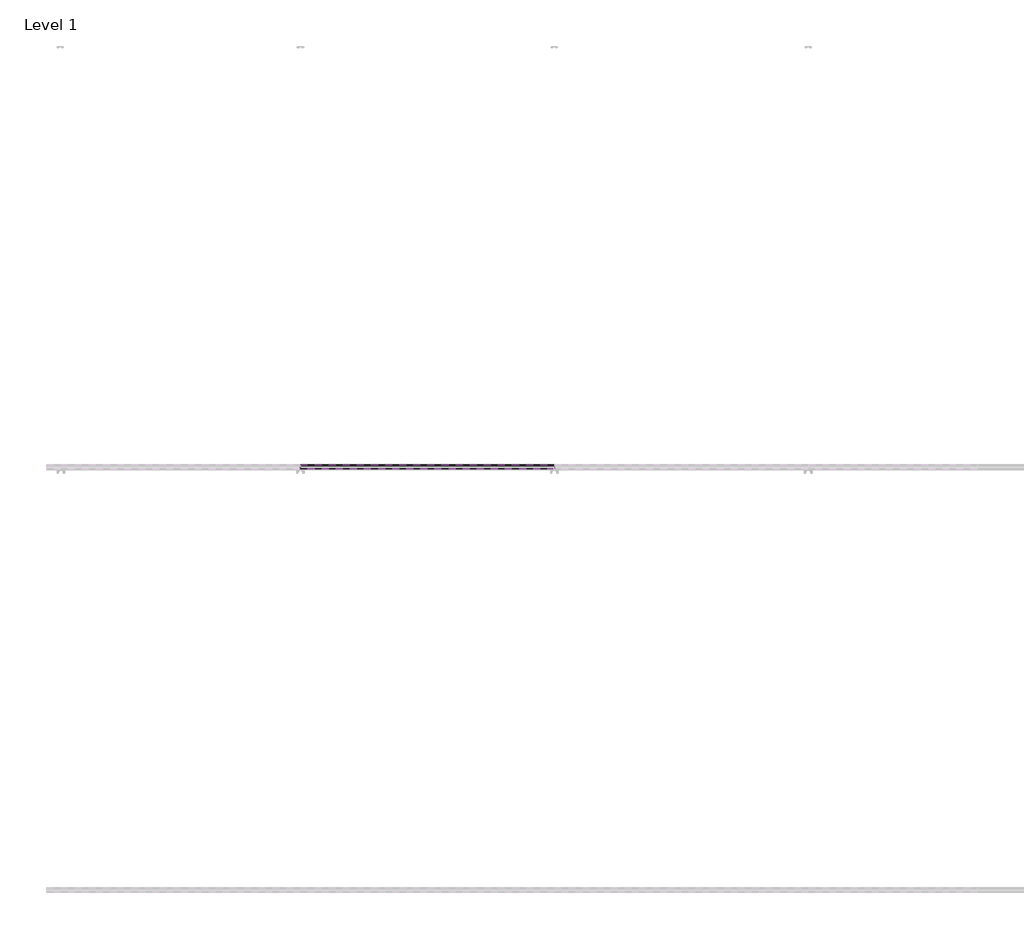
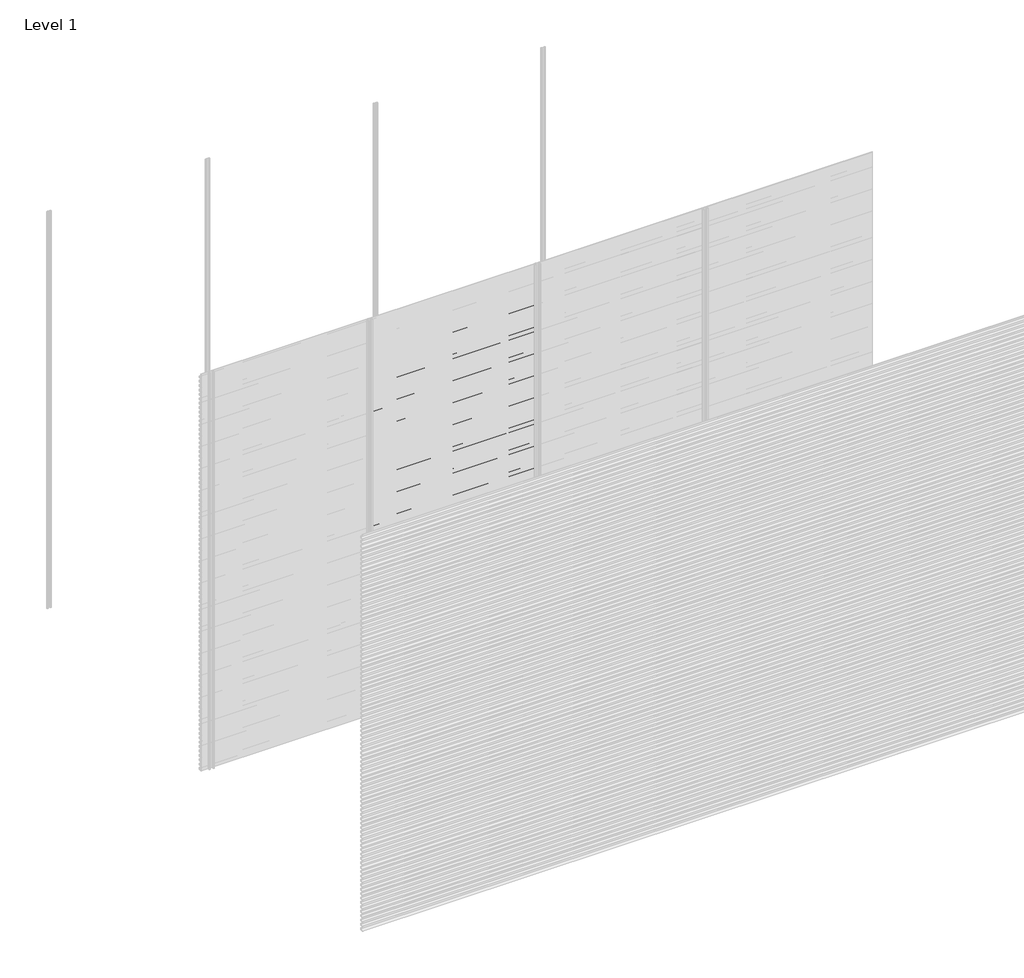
# One storey, part 66 of 77: 72 proxies.
"""IFC4 building model written with IfcOpenShell, lengths in millimetres."""

from ifc_helpers import new_model, si_unit, frame, origin, place, context, project, spatial, polyline, outline, extrude, element, save

model = new_model("IFC4")

# Units and contexts
model_context = context("Model", 3, world=origin())
ifc_project = project(units=[si_unit("LENGTHUNIT", "METRE", prefix="MILLI")], contexts=[model_context])

# Site, building, storey
site = spatial("IfcSite", under=ifc_project)
building = spatial("IfcBuilding", under=site)
storey = spatial("IfcBuildingStorey", under=building, Name="Level 1", Elevation=0.0)

# Proxies
placement = place(None, origin())
element("IfcBuildingElementProxy", 1, Name="Wall Sweeps", at=placement, inside=storey, context=model_context, shape_type="SweptSolid", body=[
    extrude(outline(polyline([(-5978.6, 2806.0359887), (-5998.0, 2817.2366691), (-5998.0, 2830.5), (-5997.0, 2830.5), (-5997.0, 2817.8191057), (-5977.6, 2806.6185105), (-5977.6, 2793.0185105), (-5978.6, 2794.5953129), (-5978.6, 2800.4032062), (-5995.9773817, 2792.3), (-5996.4, 2793.2063078), (-5978.6, 2801.5065841), (-5978.6, 2806.0359887)])), frame((1200.0, 0.0, 0.0), z_axis=(1.0, 0.0, 0.0), x_axis=(0.0, 1.0, 0.0)), (0.0, 0.0, 1.0), 1200.0),
])
element("IfcBuildingElementProxy", 2, Name="Wall Sweeps", at=placement, inside=storey, context=model_context, shape_type="SweptSolid", body=[
    extrude(outline(polyline([(-5978.6, 2772.7359887), (-5998.0, 2783.9366691), (-5998.0, 2797.2), (-5997.0, 2797.2), (-5997.0, 2784.5191057), (-5977.6, 2773.3185105), (-5977.6, 2759.7185105), (-5978.6, 2761.2953129), (-5978.6, 2767.1032062), (-5995.9773817, 2759.0), (-5996.4, 2759.9063078), (-5978.6, 2768.2065841), (-5978.6, 2772.7359887)])), frame((1200.0, 0.0, 0.0), z_axis=(1.0, 0.0, 0.0), x_axis=(0.0, 1.0, 0.0)), (0.0, 0.0, 1.0), 1200.0),
])
element("IfcBuildingElementProxy", 3, Name="Wall Sweeps", at=placement, inside=storey, context=model_context, shape_type="SweptSolid", body=[
    extrude(outline(polyline([(-5978.6, 2739.4359887), (-5998.0, 2750.6366691), (-5998.0, 2763.9), (-5997.0, 2763.9), (-5997.0, 2751.2191057), (-5977.6, 2740.0185105), (-5977.6, 2726.4185105), (-5978.6, 2727.9953129), (-5978.6, 2733.8032062), (-5995.9773817, 2725.7), (-5996.4, 2726.6063078), (-5978.6, 2734.9065841), (-5978.6, 2739.4359887)])), frame((1200.0, 0.0, 0.0), z_axis=(1.0, 0.0, 0.0), x_axis=(0.0, 1.0, 0.0)), (0.0, 0.0, 1.0), 1200.0),
])
element("IfcBuildingElementProxy", 4, Name="Wall Sweeps", at=placement, inside=storey, context=model_context, shape_type="SweptSolid", body=[
    extrude(outline(polyline([(-5978.6, 2706.1359887), (-5998.0, 2717.3366691), (-5998.0, 2730.6), (-5997.0, 2730.6), (-5997.0, 2717.9191057), (-5977.6, 2706.7185105), (-5977.6, 2693.1185105), (-5978.6, 2694.6953129), (-5978.6, 2700.5032062), (-5995.9773817, 2692.4), (-5996.4, 2693.3063078), (-5978.6, 2701.6065841), (-5978.6, 2706.1359887)])), frame((1200.0, 0.0, 0.0), z_axis=(1.0, 0.0, 0.0), x_axis=(0.0, 1.0, 0.0)), (0.0, 0.0, 1.0), 1200.0),
])
element("IfcBuildingElementProxy", 5, Name="Wall Sweeps", at=placement, inside=storey, context=model_context, shape_type="SweptSolid", body=[
    extrude(outline(polyline([(-5978.6, 2672.8359887), (-5998.0, 2684.0366691), (-5998.0, 2697.3), (-5997.0, 2697.3), (-5997.0, 2684.6191057), (-5977.6, 2673.4185105), (-5977.6, 2659.8185105), (-5978.6, 2661.3953129), (-5978.6, 2667.2032062), (-5995.9773817, 2659.1), (-5996.4, 2660.0063078), (-5978.6, 2668.3065841), (-5978.6, 2672.8359887)])), frame((1200.0, 0.0, 0.0), z_axis=(1.0, 0.0, 0.0), x_axis=(0.0, 1.0, 0.0)), (0.0, 0.0, 1.0), 1200.0),
])
element("IfcBuildingElementProxy", 6, Name="Wall Sweeps", at=placement, inside=storey, context=model_context, shape_type="SweptSolid", body=[
    extrude(outline(polyline([(-5978.6, 2639.5359887), (-5998.0, 2650.7366691), (-5998.0, 2664.0), (-5997.0, 2664.0), (-5997.0, 2651.3191057), (-5977.6, 2640.1185105), (-5977.6, 2626.5185105), (-5978.6, 2628.0953129), (-5978.6, 2633.9032062), (-5995.9773817, 2625.8), (-5996.4, 2626.7063078), (-5978.6, 2635.0065841), (-5978.6, 2639.5359887)])), frame((1200.0, 0.0, 0.0), z_axis=(1.0, 0.0, 0.0), x_axis=(0.0, 1.0, 0.0)), (0.0, 0.0, 1.0), 1200.0),
])
element("IfcBuildingElementProxy", 7, Name="Wall Sweeps", at=placement, inside=storey, context=model_context, shape_type="SweptSolid", body=[
    extrude(outline(polyline([(-5978.6, 2606.2359887), (-5998.0, 2617.4366691), (-5998.0, 2630.7), (-5997.0, 2630.7), (-5997.0, 2618.0191057), (-5977.6, 2606.8185105), (-5977.6, 2593.2185105), (-5978.6, 2594.7953129), (-5978.6, 2600.6032062), (-5995.9773817, 2592.5), (-5996.4, 2593.4063078), (-5978.6, 2601.7065841), (-5978.6, 2606.2359887)])), frame((1200.0, 0.0, 0.0), z_axis=(1.0, 0.0, 0.0), x_axis=(0.0, 1.0, 0.0)), (0.0, 0.0, 1.0), 1200.0),
])
element("IfcBuildingElementProxy", 8, Name="Wall Sweeps", at=placement, inside=storey, context=model_context, shape_type="SweptSolid", body=[
    extrude(outline(polyline([(-5978.6, 2572.9359887), (-5998.0, 2584.1366691), (-5998.0, 2597.4), (-5997.0, 2597.4), (-5997.0, 2584.7191057), (-5977.6, 2573.5185105), (-5977.6, 2559.9185105), (-5978.6, 2561.4953129), (-5978.6, 2567.3032062), (-5995.9773817, 2559.2), (-5996.4, 2560.1063078), (-5978.6, 2568.4065841), (-5978.6, 2572.9359887)])), frame((1200.0, 0.0, 0.0), z_axis=(1.0, 0.0, 0.0), x_axis=(0.0, 1.0, 0.0)), (0.0, 0.0, 1.0), 1200.0),
])
element("IfcBuildingElementProxy", 9, Name="Wall Sweeps", at=placement, inside=storey, context=model_context, shape_type="SweptSolid", body=[
    extrude(outline(polyline([(-5978.6, 2539.6359887), (-5998.0, 2550.8366691), (-5998.0, 2564.1), (-5997.0, 2564.1), (-5997.0, 2551.4191057), (-5977.6, 2540.2185105), (-5977.6, 2526.6185105), (-5978.6, 2528.1953129), (-5978.6, 2534.0032062), (-5995.9773817, 2525.9), (-5996.4, 2526.8063078), (-5978.6, 2535.1065841), (-5978.6, 2539.6359887)])), frame((1200.0, 0.0, 0.0), z_axis=(1.0, 0.0, 0.0), x_axis=(0.0, 1.0, 0.0)), (0.0, 0.0, 1.0), 1200.0),
])
element("IfcBuildingElementProxy", 10, Name="Wall Sweeps", at=placement, inside=storey, context=model_context, shape_type="SweptSolid", body=[
    extrude(outline(polyline([(-5978.6, 2506.3359887), (-5998.0, 2517.5366691), (-5998.0, 2530.8), (-5997.0, 2530.8), (-5997.0, 2518.1191057), (-5977.6, 2506.9185105), (-5977.6, 2493.3185105), (-5978.6, 2494.8953129), (-5978.6, 2500.7032062), (-5995.9773817, 2492.6), (-5996.4, 2493.5063078), (-5978.6, 2501.8065841), (-5978.6, 2506.3359887)])), frame((1200.0, 0.0, 0.0), z_axis=(1.0, 0.0, 0.0), x_axis=(0.0, 1.0, 0.0)), (0.0, 0.0, 1.0), 1200.0),
])
element("IfcBuildingElementProxy", 11, Name="Wall Sweeps", at=placement, inside=storey, context=model_context, shape_type="SweptSolid", body=[
    extrude(outline(polyline([(-5978.6, 2473.0359887), (-5998.0, 2484.2366691), (-5998.0, 2497.5), (-5997.0, 2497.5), (-5997.0, 2484.8191057), (-5977.6, 2473.6185105), (-5977.6, 2460.0185105), (-5978.6, 2461.5953129), (-5978.6, 2467.4032062), (-5995.9773817, 2459.3), (-5996.4, 2460.2063078), (-5978.6, 2468.5065841), (-5978.6, 2473.0359887)])), frame((1200.0, 0.0, 0.0), z_axis=(1.0, 0.0, 0.0), x_axis=(0.0, 1.0, 0.0)), (0.0, 0.0, 1.0), 1200.0),
])
element("IfcBuildingElementProxy", 12, Name="Wall Sweeps", at=placement, inside=storey, context=model_context, shape_type="SweptSolid", body=[
    extrude(outline(polyline([(-5978.6, 2439.7359887), (-5998.0, 2450.9366691), (-5998.0, 2464.2), (-5997.0, 2464.2), (-5997.0, 2451.5191057), (-5977.6, 2440.3185105), (-5977.6, 2426.7185105), (-5978.6, 2428.2953129), (-5978.6, 2434.1032062), (-5995.9773817, 2426.0), (-5996.4, 2426.9063078), (-5978.6, 2435.2065841), (-5978.6, 2439.7359887)])), frame((1200.0, 0.0, 0.0), z_axis=(1.0, 0.0, 0.0), x_axis=(0.0, 1.0, 0.0)), (0.0, 0.0, 1.0), 1200.0),
])
element("IfcBuildingElementProxy", 13, Name="Wall Sweeps", at=placement, inside=storey, context=model_context, shape_type="SweptSolid", body=[
    extrude(outline(polyline([(-5978.6, 2406.4359887), (-5998.0, 2417.6366691), (-5998.0, 2430.9), (-5997.0, 2430.9), (-5997.0, 2418.2191057), (-5977.6, 2407.0185105), (-5977.6, 2393.4185105), (-5978.6, 2394.9953129), (-5978.6, 2400.8032062), (-5995.9773817, 2392.7), (-5996.4, 2393.6063078), (-5978.6, 2401.9065841), (-5978.6, 2406.4359887)])), frame((1200.0, 0.0, 0.0), z_axis=(1.0, 0.0, 0.0), x_axis=(0.0, 1.0, 0.0)), (0.0, 0.0, 1.0), 1200.0),
])
element("IfcBuildingElementProxy", 14, Name="Wall Sweeps", at=placement, inside=storey, context=model_context, shape_type="SweptSolid", body=[
    extrude(outline(polyline([(-5978.6, 2373.1359887), (-5998.0, 2384.3366691), (-5998.0, 2397.6), (-5997.0, 2397.6), (-5997.0, 2384.9191057), (-5977.6, 2373.7185105), (-5977.6, 2360.1185105), (-5978.6, 2361.6953129), (-5978.6, 2367.5032062), (-5995.9773817, 2359.4), (-5996.4, 2360.3063078), (-5978.6, 2368.6065841), (-5978.6, 2373.1359887)])), frame((1200.0, 0.0, 0.0), z_axis=(1.0, 0.0, 0.0), x_axis=(0.0, 1.0, 0.0)), (0.0, 0.0, 1.0), 1200.0),
])
element("IfcBuildingElementProxy", 15, Name="Wall Sweeps", at=placement, inside=storey, context=model_context, shape_type="SweptSolid", body=[
    extrude(outline(polyline([(-5978.6, 2339.8359887), (-5998.0, 2351.0366691), (-5998.0, 2364.3), (-5997.0, 2364.3), (-5997.0, 2351.6191057), (-5977.6, 2340.4185105), (-5977.6, 2326.8185105), (-5978.6, 2328.3953129), (-5978.6, 2334.2032062), (-5995.9773817, 2326.1), (-5996.4, 2327.0063078), (-5978.6, 2335.3065841), (-5978.6, 2339.8359887)])), frame((1200.0, 0.0, 0.0), z_axis=(1.0, 0.0, 0.0), x_axis=(0.0, 1.0, 0.0)), (0.0, 0.0, 1.0), 1200.0),
])
element("IfcBuildingElementProxy", 16, Name="Wall Sweeps", at=placement, inside=storey, context=model_context, shape_type="SweptSolid", body=[
    extrude(outline(polyline([(-5978.6, 2306.5359887), (-5998.0, 2317.7366691), (-5998.0, 2331.0), (-5997.0, 2331.0), (-5997.0, 2318.3191057), (-5977.6, 2307.1185105), (-5977.6, 2293.5185105), (-5978.6, 2295.0953129), (-5978.6, 2300.9032062), (-5995.9773817, 2292.8), (-5996.4, 2293.7063078), (-5978.6, 2302.0065841), (-5978.6, 2306.5359887)])), frame((1200.0, 0.0, 0.0), z_axis=(1.0, 0.0, 0.0), x_axis=(0.0, 1.0, 0.0)), (0.0, 0.0, 1.0), 1200.0),
])
element("IfcBuildingElementProxy", 17, Name="Wall Sweeps", at=placement, inside=storey, context=model_context, shape_type="SweptSolid", body=[
    extrude(outline(polyline([(-5978.6, 2273.2359887), (-5998.0, 2284.4366691), (-5998.0, 2297.7), (-5997.0, 2297.7), (-5997.0, 2285.0191057), (-5977.6, 2273.8185105), (-5977.6, 2260.2185105), (-5978.6, 2261.7953129), (-5978.6, 2267.6032062), (-5995.9773817, 2259.5), (-5996.4, 2260.4063078), (-5978.6, 2268.7065841), (-5978.6, 2273.2359887)])), frame((1200.0, 0.0, 0.0), z_axis=(1.0, 0.0, 0.0), x_axis=(0.0, 1.0, 0.0)), (0.0, 0.0, 1.0), 1200.0),
])
element("IfcBuildingElementProxy", 18, Name="Wall Sweeps", at=placement, inside=storey, context=model_context, shape_type="SweptSolid", body=[
    extrude(outline(polyline([(-5978.6, 2239.9359887), (-5998.0, 2251.1366691), (-5998.0, 2264.4), (-5997.0, 2264.4), (-5997.0, 2251.7191057), (-5977.6, 2240.5185105), (-5977.6, 2226.9185105), (-5978.6, 2228.4953129), (-5978.6, 2234.3032062), (-5995.9773817, 2226.2), (-5996.4, 2227.1063078), (-5978.6, 2235.4065841), (-5978.6, 2239.9359887)])), frame((1200.0, 0.0, 0.0), z_axis=(1.0, 0.0, 0.0), x_axis=(0.0, 1.0, 0.0)), (0.0, 0.0, 1.0), 1200.0),
])
element("IfcBuildingElementProxy", 19, Name="Wall Sweeps", at=placement, inside=storey, context=model_context, shape_type="SweptSolid", body=[
    extrude(outline(polyline([(-5978.6, 2206.6359887), (-5998.0, 2217.8366691), (-5998.0, 2231.1), (-5997.0, 2231.1), (-5997.0, 2218.4191057), (-5977.6, 2207.2185105), (-5977.6, 2193.6185105), (-5978.6, 2195.1953129), (-5978.6, 2201.0032062), (-5995.9773817, 2192.9), (-5996.4, 2193.8063078), (-5978.6, 2202.1065841), (-5978.6, 2206.6359887)])), frame((1200.0, 0.0, 0.0), z_axis=(1.0, 0.0, 0.0), x_axis=(0.0, 1.0, 0.0)), (0.0, 0.0, 1.0), 1200.0),
])
element("IfcBuildingElementProxy", 20, Name="Wall Sweeps", at=placement, inside=storey, context=model_context, shape_type="SweptSolid", body=[
    extrude(outline(polyline([(-5978.6, 2173.3359887), (-5998.0, 2184.5366691), (-5998.0, 2197.8), (-5997.0, 2197.8), (-5997.0, 2185.1191057), (-5977.6, 2173.9185105), (-5977.6, 2160.3185105), (-5978.6, 2161.8953129), (-5978.6, 2167.7032062), (-5995.9773817, 2159.6), (-5996.4, 2160.5063078), (-5978.6, 2168.8065841), (-5978.6, 2173.3359887)])), frame((1200.0, 0.0, 0.0), z_axis=(1.0, 0.0, 0.0), x_axis=(0.0, 1.0, 0.0)), (0.0, 0.0, 1.0), 1200.0),
])
element("IfcBuildingElementProxy", 21, Name="Wall Sweeps", at=placement, inside=storey, context=model_context, shape_type="SweptSolid", body=[
    extrude(outline(polyline([(-5978.6, 2140.0359887), (-5998.0, 2151.2366691), (-5998.0, 2164.5), (-5997.0, 2164.5), (-5997.0, 2151.8191057), (-5977.6, 2140.6185105), (-5977.6, 2127.0185105), (-5978.6, 2128.5953129), (-5978.6, 2134.4032062), (-5995.9773817, 2126.3), (-5996.4, 2127.2063078), (-5978.6, 2135.5065841), (-5978.6, 2140.0359887)])), frame((1200.0, 0.0, 0.0), z_axis=(1.0, 0.0, 0.0), x_axis=(0.0, 1.0, 0.0)), (0.0, 0.0, 1.0), 1200.0),
])
element("IfcBuildingElementProxy", 22, Name="Wall Sweeps", at=placement, inside=storey, context=model_context, shape_type="SweptSolid", body=[
    extrude(outline(polyline([(-5978.6, 2106.7359887), (-5998.0, 2117.9366691), (-5998.0, 2131.2), (-5997.0, 2131.2), (-5997.0, 2118.5191057), (-5977.6, 2107.3185105), (-5977.6, 2093.7185105), (-5978.6, 2095.2953129), (-5978.6, 2101.1032062), (-5995.9773817, 2093.0), (-5996.4, 2093.9063078), (-5978.6, 2102.2065841), (-5978.6, 2106.7359887)])), frame((1200.0, 0.0, 0.0), z_axis=(1.0, 0.0, 0.0), x_axis=(0.0, 1.0, 0.0)), (0.0, 0.0, 1.0), 1200.0),
])
element("IfcBuildingElementProxy", 23, Name="Wall Sweeps", at=placement, inside=storey, context=model_context, shape_type="SweptSolid", body=[
    extrude(outline(polyline([(-5978.6, 2073.4359887), (-5998.0, 2084.6366691), (-5998.0, 2097.9), (-5997.0, 2097.9), (-5997.0, 2085.2191057), (-5977.6, 2074.0185105), (-5977.6, 2060.4185105), (-5978.6, 2061.9953129), (-5978.6, 2067.8032062), (-5995.9773817, 2059.7), (-5996.4, 2060.6063078), (-5978.6, 2068.9065841), (-5978.6, 2073.4359887)])), frame((1200.0, 0.0, 0.0), z_axis=(1.0, 0.0, 0.0), x_axis=(0.0, 1.0, 0.0)), (0.0, 0.0, 1.0), 1200.0),
])
element("IfcBuildingElementProxy", 24, Name="Wall Sweeps", at=placement, inside=storey, context=model_context, shape_type="SweptSolid", body=[
    extrude(outline(polyline([(-5978.6, 2040.1359887), (-5998.0, 2051.3366691), (-5998.0, 2064.6), (-5997.0, 2064.6), (-5997.0, 2051.9191057), (-5977.6, 2040.7185105), (-5977.6, 2027.1185105), (-5978.6, 2028.6953129), (-5978.6, 2034.5032062), (-5995.9773817, 2026.4), (-5996.4, 2027.3063078), (-5978.6, 2035.6065841), (-5978.6, 2040.1359887)])), frame((1200.0, 0.0, 0.0), z_axis=(1.0, 0.0, 0.0), x_axis=(0.0, 1.0, 0.0)), (0.0, 0.0, 1.0), 1200.0),
])
element("IfcBuildingElementProxy", 25, Name="Wall Sweeps", at=placement, inside=storey, context=model_context, shape_type="SweptSolid", body=[
    extrude(outline(polyline([(-5978.6, 2006.8359887), (-5998.0, 2018.0366691), (-5998.0, 2031.3), (-5997.0, 2031.3), (-5997.0, 2018.6191057), (-5977.6, 2007.4185105), (-5977.6, 1993.8185105), (-5978.6, 1995.3953129), (-5978.6, 2001.2032062), (-5995.9773817, 1993.1), (-5996.4, 1994.0063078), (-5978.6, 2002.3065841), (-5978.6, 2006.8359887)])), frame((1200.0, 0.0, 0.0), z_axis=(1.0, 0.0, 0.0), x_axis=(0.0, 1.0, 0.0)), (0.0, 0.0, 1.0), 1200.0),
])
element("IfcBuildingElementProxy", 26, Name="Wall Sweeps", at=placement, inside=storey, context=model_context, shape_type="SweptSolid", body=[
    extrude(outline(polyline([(-5978.6, 1973.5359887), (-5998.0, 1984.7366691), (-5998.0, 1998.0), (-5997.0, 1998.0), (-5997.0, 1985.3191057), (-5977.6, 1974.1185105), (-5977.6, 1960.5185105), (-5978.6, 1962.0953129), (-5978.6, 1967.9032062), (-5995.9773817, 1959.8), (-5996.4, 1960.7063078), (-5978.6, 1969.0065841), (-5978.6, 1973.5359887)])), frame((1200.0, 0.0, 0.0), z_axis=(1.0, 0.0, 0.0), x_axis=(0.0, 1.0, 0.0)), (0.0, 0.0, 1.0), 1200.0),
])
element("IfcBuildingElementProxy", 27, Name="Wall Sweeps", at=placement, inside=storey, context=model_context, shape_type="SweptSolid", body=[
    extrude(outline(polyline([(-5978.6, 1940.2359887), (-5998.0, 1951.4366691), (-5998.0, 1964.7), (-5997.0, 1964.7), (-5997.0, 1952.0191057), (-5977.6, 1940.8185105), (-5977.6, 1927.2185105), (-5978.6, 1928.7953129), (-5978.6, 1934.6032062), (-5995.9773817, 1926.5), (-5996.4, 1927.4063078), (-5978.6, 1935.7065841), (-5978.6, 1940.2359887)])), frame((1200.0, 0.0, 0.0), z_axis=(1.0, 0.0, 0.0), x_axis=(0.0, 1.0, 0.0)), (0.0, 0.0, 1.0), 1200.0),
])
element("IfcBuildingElementProxy", 28, Name="Wall Sweeps", at=placement, inside=storey, context=model_context, shape_type="SweptSolid", body=[
    extrude(outline(polyline([(-5978.6, 1906.9359887), (-5998.0, 1918.1366691), (-5998.0, 1931.4), (-5997.0, 1931.4), (-5997.0, 1918.7191057), (-5977.6, 1907.5185105), (-5977.6, 1893.9185105), (-5978.6, 1895.4953129), (-5978.6, 1901.3032062), (-5995.9773817, 1893.2), (-5996.4, 1894.1063078), (-5978.6, 1902.4065841), (-5978.6, 1906.9359887)])), frame((1200.0, 0.0, 0.0), z_axis=(1.0, 0.0, 0.0), x_axis=(0.0, 1.0, 0.0)), (0.0, 0.0, 1.0), 1200.0),
])
element("IfcBuildingElementProxy", 29, Name="Wall Sweeps", at=placement, inside=storey, context=model_context, shape_type="SweptSolid", body=[
    extrude(outline(polyline([(-5978.6, 1873.6359887), (-5998.0, 1884.8366691), (-5998.0, 1898.1), (-5997.0, 1898.1), (-5997.0, 1885.4191057), (-5977.6, 1874.2185105), (-5977.6, 1860.6185105), (-5978.6, 1862.1953129), (-5978.6, 1868.0032062), (-5995.9773817, 1859.9), (-5996.4, 1860.8063078), (-5978.6, 1869.1065841), (-5978.6, 1873.6359887)])), frame((1200.0, 0.0, 0.0), z_axis=(1.0, 0.0, 0.0), x_axis=(0.0, 1.0, 0.0)), (0.0, 0.0, 1.0), 1200.0),
])
element("IfcBuildingElementProxy", 30, Name="Wall Sweeps", at=placement, inside=storey, context=model_context, shape_type="SweptSolid", body=[
    extrude(outline(polyline([(-5978.6, 1840.3359887), (-5998.0, 1851.5366691), (-5998.0, 1864.8), (-5997.0, 1864.8), (-5997.0, 1852.1191057), (-5977.6, 1840.9185105), (-5977.6, 1827.3185105), (-5978.6, 1828.8953129), (-5978.6, 1834.7032062), (-5995.9773817, 1826.6), (-5996.4, 1827.5063078), (-5978.6, 1835.8065841), (-5978.6, 1840.3359887)])), frame((1200.0, 0.0, 0.0), z_axis=(1.0, 0.0, 0.0), x_axis=(0.0, 1.0, 0.0)), (0.0, 0.0, 1.0), 1200.0),
])
element("IfcBuildingElementProxy", 31, Name="Wall Sweeps", at=placement, inside=storey, context=model_context, shape_type="SweptSolid", body=[
    extrude(outline(polyline([(-5978.6, 1807.0359887), (-5998.0, 1818.2366691), (-5998.0, 1831.5), (-5997.0, 1831.5), (-5997.0, 1818.8191057), (-5977.6, 1807.6185105), (-5977.6, 1794.0185105), (-5978.6, 1795.5953129), (-5978.6, 1801.4032062), (-5995.9773817, 1793.3), (-5996.4, 1794.2063078), (-5978.6, 1802.5065841), (-5978.6, 1807.0359887)])), frame((1200.0, 0.0, 0.0), z_axis=(1.0, 0.0, 0.0), x_axis=(0.0, 1.0, 0.0)), (0.0, 0.0, 1.0), 1200.0),
])
element("IfcBuildingElementProxy", 32, Name="Wall Sweeps", at=placement, inside=storey, context=model_context, shape_type="SweptSolid", body=[
    extrude(outline(polyline([(-5978.6, 1773.7359887), (-5998.0, 1784.9366691), (-5998.0, 1798.2), (-5997.0, 1798.2), (-5997.0, 1785.5191057), (-5977.6, 1774.3185105), (-5977.6, 1760.7185105), (-5978.6, 1762.2953129), (-5978.6, 1768.1032062), (-5995.9773817, 1760.0), (-5996.4, 1760.9063078), (-5978.6, 1769.2065841), (-5978.6, 1773.7359887)])), frame((1200.0, 0.0, 0.0), z_axis=(1.0, 0.0, 0.0), x_axis=(0.0, 1.0, 0.0)), (0.0, 0.0, 1.0), 1200.0),
])
element("IfcBuildingElementProxy", 33, Name="Wall Sweeps", at=placement, inside=storey, context=model_context, shape_type="SweptSolid", body=[
    extrude(outline(polyline([(-5978.6, 1740.4359887), (-5998.0, 1751.6366691), (-5998.0, 1764.9), (-5997.0, 1764.9), (-5997.0, 1752.2191057), (-5977.6, 1741.0185105), (-5977.6, 1727.4185105), (-5978.6, 1728.9953129), (-5978.6, 1734.8032062), (-5995.9773817, 1726.7), (-5996.4, 1727.6063078), (-5978.6, 1735.9065841), (-5978.6, 1740.4359887)])), frame((1200.0, 0.0, 0.0), z_axis=(1.0, 0.0, 0.0), x_axis=(0.0, 1.0, 0.0)), (0.0, 0.0, 1.0), 1200.0),
])
element("IfcBuildingElementProxy", 34, Name="Wall Sweeps", at=placement, inside=storey, context=model_context, shape_type="SweptSolid", body=[
    extrude(outline(polyline([(-5978.6, 1707.1359887), (-5998.0, 1718.3366691), (-5998.0, 1731.6), (-5997.0, 1731.6), (-5997.0, 1718.9191057), (-5977.6, 1707.7185105), (-5977.6, 1694.1185105), (-5978.6, 1695.6953129), (-5978.6, 1701.5032062), (-5995.9773817, 1693.4), (-5996.4, 1694.3063078), (-5978.6, 1702.6065841), (-5978.6, 1707.1359887)])), frame((1200.0, 0.0, 0.0), z_axis=(1.0, 0.0, 0.0), x_axis=(0.0, 1.0, 0.0)), (0.0, 0.0, 1.0), 1200.0),
])
element("IfcBuildingElementProxy", 35, Name="Wall Sweeps", at=placement, inside=storey, context=model_context, shape_type="SweptSolid", body=[
    extrude(outline(polyline([(-5978.6, 1673.8359887), (-5998.0, 1685.0366691), (-5998.0, 1698.3), (-5997.0, 1698.3), (-5997.0, 1685.6191057), (-5977.6, 1674.4185105), (-5977.6, 1660.8185105), (-5978.6, 1662.3953129), (-5978.6, 1668.2032062), (-5995.9773817, 1660.1), (-5996.4, 1661.0063078), (-5978.6, 1669.3065841), (-5978.6, 1673.8359887)])), frame((1200.0, 0.0, 0.0), z_axis=(1.0, 0.0, 0.0), x_axis=(0.0, 1.0, 0.0)), (0.0, 0.0, 1.0), 1200.0),
])
element("IfcBuildingElementProxy", 36, Name="Wall Sweeps", at=placement, inside=storey, context=model_context, shape_type="SweptSolid", body=[
    extrude(outline(polyline([(-5978.6, 1640.5359887), (-5998.0, 1651.7366691), (-5998.0, 1665.0), (-5997.0, 1665.0), (-5997.0, 1652.3191057), (-5977.6, 1641.1185105), (-5977.6, 1627.5185105), (-5978.6, 1629.0953129), (-5978.6, 1634.9032062), (-5995.9773817, 1626.8), (-5996.4, 1627.7063078), (-5978.6, 1636.0065841), (-5978.6, 1640.5359887)])), frame((1200.0, 0.0, 0.0), z_axis=(1.0, 0.0, 0.0), x_axis=(0.0, 1.0, 0.0)), (0.0, 0.0, 1.0), 1200.0),
])
element("IfcBuildingElementProxy", 37, Name="Wall Sweeps", at=placement, inside=storey, context=model_context, shape_type="SweptSolid", body=[
    extrude(outline(polyline([(-5978.6, 1607.2359887), (-5998.0, 1618.4366691), (-5998.0, 1631.7), (-5997.0, 1631.7), (-5997.0, 1619.0191057), (-5977.6, 1607.8185105), (-5977.6, 1594.2185105), (-5978.6, 1595.7953129), (-5978.6, 1601.6032062), (-5995.9773817, 1593.5), (-5996.4, 1594.4063078), (-5978.6, 1602.7065841), (-5978.6, 1607.2359887)])), frame((1200.0, 0.0, 0.0), z_axis=(1.0, 0.0, 0.0), x_axis=(0.0, 1.0, 0.0)), (0.0, 0.0, 1.0), 1200.0),
])
element("IfcBuildingElementProxy", 38, Name="Wall Sweeps", at=placement, inside=storey, context=model_context, shape_type="SweptSolid", body=[
    extrude(outline(polyline([(-5978.6, 1573.9359887), (-5998.0, 1585.1366691), (-5998.0, 1598.4), (-5997.0, 1598.4), (-5997.0, 1585.7191057), (-5977.6, 1574.5185105), (-5977.6, 1560.9185105), (-5978.6, 1562.4953129), (-5978.6, 1568.3032062), (-5995.9773817, 1560.2), (-5996.4, 1561.1063078), (-5978.6, 1569.4065841), (-5978.6, 1573.9359887)])), frame((1200.0, 0.0, 0.0), z_axis=(1.0, 0.0, 0.0), x_axis=(0.0, 1.0, 0.0)), (0.0, 0.0, 1.0), 1200.0),
])
element("IfcBuildingElementProxy", 39, Name="Wall Sweeps", at=placement, inside=storey, context=model_context, shape_type="SweptSolid", body=[
    extrude(outline(polyline([(-5978.6, 1540.6359887), (-5998.0, 1551.8366691), (-5998.0, 1565.1), (-5997.0, 1565.1), (-5997.0, 1552.4191057), (-5977.6, 1541.2185105), (-5977.6, 1527.6185105), (-5978.6, 1529.1953129), (-5978.6, 1535.0032062), (-5995.9773817, 1526.9), (-5996.4, 1527.8063078), (-5978.6, 1536.1065841), (-5978.6, 1540.6359887)])), frame((1200.0, 0.0, 0.0), z_axis=(1.0, 0.0, 0.0), x_axis=(0.0, 1.0, 0.0)), (0.0, 0.0, 1.0), 1200.0),
])
element("IfcBuildingElementProxy", 40, Name="Wall Sweeps", at=placement, inside=storey, context=model_context, shape_type="SweptSolid", body=[
    extrude(outline(polyline([(-5978.6, 1507.3359887), (-5998.0, 1518.5366691), (-5998.0, 1531.8), (-5997.0, 1531.8), (-5997.0, 1519.1191057), (-5977.6, 1507.9185105), (-5977.6, 1494.3185105), (-5978.6, 1495.8953129), (-5978.6, 1501.7032062), (-5995.9773817, 1493.6), (-5996.4, 1494.5063078), (-5978.6, 1502.8065841), (-5978.6, 1507.3359887)])), frame((1200.0, 0.0, 0.0), z_axis=(1.0, 0.0, 0.0), x_axis=(0.0, 1.0, 0.0)), (0.0, 0.0, 1.0), 1200.0),
])
element("IfcBuildingElementProxy", 41, Name="Wall Sweeps", at=placement, inside=storey, context=model_context, shape_type="SweptSolid", body=[
    extrude(outline(polyline([(-5978.6, 1474.0359887), (-5998.0, 1485.2366691), (-5998.0, 1498.5), (-5997.0, 1498.5), (-5997.0, 1485.8191057), (-5977.6, 1474.6185105), (-5977.6, 1461.0185105), (-5978.6, 1462.5953129), (-5978.6, 1468.4032062), (-5995.9773817, 1460.3), (-5996.4, 1461.2063078), (-5978.6, 1469.5065841), (-5978.6, 1474.0359887)])), frame((1200.0, 0.0, 0.0), z_axis=(1.0, 0.0, 0.0), x_axis=(0.0, 1.0, 0.0)), (0.0, 0.0, 1.0), 1200.0),
])
element("IfcBuildingElementProxy", 42, Name="Wall Sweeps", at=placement, inside=storey, context=model_context, shape_type="SweptSolid", body=[
    extrude(outline(polyline([(-5978.6, 1440.7359887), (-5998.0, 1451.9366691), (-5998.0, 1465.2), (-5997.0, 1465.2), (-5997.0, 1452.5191057), (-5977.6, 1441.3185105), (-5977.6, 1427.7185105), (-5978.6, 1429.2953129), (-5978.6, 1435.1032062), (-5995.9773817, 1427.0), (-5996.4, 1427.9063078), (-5978.6, 1436.2065841), (-5978.6, 1440.7359887)])), frame((1200.0, 0.0, 0.0), z_axis=(1.0, 0.0, 0.0), x_axis=(0.0, 1.0, 0.0)), (0.0, 0.0, 1.0), 1200.0),
])
element("IfcBuildingElementProxy", 43, Name="Wall Sweeps", at=placement, inside=storey, context=model_context, shape_type="SweptSolid", body=[
    extrude(outline(polyline([(-5978.6, 1407.4359887), (-5998.0, 1418.6366691), (-5998.0, 1431.9), (-5997.0, 1431.9), (-5997.0, 1419.2191057), (-5977.6, 1408.0185105), (-5977.6, 1394.4185105), (-5978.6, 1395.9953129), (-5978.6, 1401.8032062), (-5995.9773817, 1393.7), (-5996.4, 1394.6063078), (-5978.6, 1402.9065841), (-5978.6, 1407.4359887)])), frame((1200.0, 0.0, 0.0), z_axis=(1.0, 0.0, 0.0), x_axis=(0.0, 1.0, 0.0)), (0.0, 0.0, 1.0), 1200.0),
])
element("IfcBuildingElementProxy", 44, Name="Wall Sweeps", at=placement, inside=storey, context=model_context, shape_type="SweptSolid", body=[
    extrude(outline(polyline([(-5978.6, 1374.1359887), (-5998.0, 1385.3366691), (-5998.0, 1398.6), (-5997.0, 1398.6), (-5997.0, 1385.9191057), (-5977.6, 1374.7185105), (-5977.6, 1361.1185105), (-5978.6, 1362.6953129), (-5978.6, 1368.5032062), (-5995.9773817, 1360.4), (-5996.4, 1361.3063078), (-5978.6, 1369.6065841), (-5978.6, 1374.1359887)])), frame((1200.0, 0.0, 0.0), z_axis=(1.0, 0.0, 0.0), x_axis=(0.0, 1.0, 0.0)), (0.0, 0.0, 1.0), 1200.0),
])
element("IfcBuildingElementProxy", 45, Name="Wall Sweeps", at=placement, inside=storey, context=model_context, shape_type="SweptSolid", body=[
    extrude(outline(polyline([(-5978.6, 1340.8359887), (-5998.0, 1352.0366691), (-5998.0, 1365.3), (-5997.0, 1365.3), (-5997.0, 1352.6191057), (-5977.6, 1341.4185105), (-5977.6, 1327.8185105), (-5978.6, 1329.3953129), (-5978.6, 1335.2032062), (-5995.9773817, 1327.1), (-5996.4, 1328.0063078), (-5978.6, 1336.3065841), (-5978.6, 1340.8359887)])), frame((1200.0, 0.0, 0.0), z_axis=(1.0, 0.0, 0.0), x_axis=(0.0, 1.0, 0.0)), (0.0, 0.0, 1.0), 1200.0),
])
element("IfcBuildingElementProxy", 46, Name="Wall Sweeps", at=placement, inside=storey, context=model_context, shape_type="SweptSolid", body=[
    extrude(outline(polyline([(-5978.6, 1307.5359887), (-5998.0, 1318.7366691), (-5998.0, 1332.0), (-5997.0, 1332.0), (-5997.0, 1319.3191057), (-5977.6, 1308.1185105), (-5977.6, 1294.5185105), (-5978.6, 1296.0953129), (-5978.6, 1301.9032062), (-5995.9773817, 1293.8), (-5996.4, 1294.7063078), (-5978.6, 1303.0065841), (-5978.6, 1307.5359887)])), frame((1200.0, 0.0, 0.0), z_axis=(1.0, 0.0, 0.0), x_axis=(0.0, 1.0, 0.0)), (0.0, 0.0, 1.0), 1200.0),
])
element("IfcBuildingElementProxy", 47, Name="Wall Sweeps", at=placement, inside=storey, context=model_context, shape_type="SweptSolid", body=[
    extrude(outline(polyline([(-5978.6, 1274.2359887), (-5998.0, 1285.4366691), (-5998.0, 1298.7), (-5997.0, 1298.7), (-5997.0, 1286.0191057), (-5977.6, 1274.8185105), (-5977.6, 1261.2185105), (-5978.6, 1262.7953129), (-5978.6, 1268.6032062), (-5995.9773817, 1260.5), (-5996.4, 1261.4063078), (-5978.6, 1269.7065841), (-5978.6, 1274.2359887)])), frame((1200.0, 0.0, 0.0), z_axis=(1.0, 0.0, 0.0), x_axis=(0.0, 1.0, 0.0)), (0.0, 0.0, 1.0), 1200.0),
])
element("IfcBuildingElementProxy", 48, Name="Wall Sweeps", at=placement, inside=storey, context=model_context, shape_type="SweptSolid", body=[
    extrude(outline(polyline([(-5978.6, 1240.9359887), (-5998.0, 1252.1366691), (-5998.0, 1265.4), (-5997.0, 1265.4), (-5997.0, 1252.7191057), (-5977.6, 1241.5185105), (-5977.6, 1227.9185105), (-5978.6, 1229.4953129), (-5978.6, 1235.3032062), (-5995.9773817, 1227.2), (-5996.4, 1228.1063078), (-5978.6, 1236.4065841), (-5978.6, 1240.9359887)])), frame((1200.0, 0.0, 0.0), z_axis=(1.0, 0.0, 0.0), x_axis=(0.0, 1.0, 0.0)), (0.0, 0.0, 1.0), 1200.0),
])
element("IfcBuildingElementProxy", 49, Name="Wall Sweeps", at=placement, inside=storey, context=model_context, shape_type="SweptSolid", body=[
    extrude(outline(polyline([(-5978.6, 1207.6359887), (-5998.0, 1218.8366691), (-5998.0, 1232.1), (-5997.0, 1232.1), (-5997.0, 1219.4191057), (-5977.6, 1208.2185105), (-5977.6, 1194.6185105), (-5978.6, 1196.1953129), (-5978.6, 1202.0032062), (-5995.9773817, 1193.9), (-5996.4, 1194.8063078), (-5978.6, 1203.1065841), (-5978.6, 1207.6359887)])), frame((1200.0, 0.0, 0.0), z_axis=(1.0, 0.0, 0.0), x_axis=(0.0, 1.0, 0.0)), (0.0, 0.0, 1.0), 1200.0),
])
element("IfcBuildingElementProxy", 50, Name="Wall Sweeps", at=placement, inside=storey, context=model_context, shape_type="SweptSolid", body=[
    extrude(outline(polyline([(-5978.6, 1174.3359887), (-5998.0, 1185.5366691), (-5998.0, 1198.8), (-5997.0, 1198.8), (-5997.0, 1186.1191057), (-5977.6, 1174.9185105), (-5977.6, 1161.3185105), (-5978.6, 1162.8953129), (-5978.6, 1168.7032062), (-5995.9773817, 1160.6), (-5996.4, 1161.5063078), (-5978.6, 1169.8065841), (-5978.6, 1174.3359887)])), frame((1200.0, 0.0, 0.0), z_axis=(1.0, 0.0, 0.0), x_axis=(0.0, 1.0, 0.0)), (0.0, 0.0, 1.0), 1200.0),
])
element("IfcBuildingElementProxy", 51, Name="Wall Sweeps", at=placement, inside=storey, context=model_context, shape_type="SweptSolid", body=[
    extrude(outline(polyline([(-5978.6, 1141.0359887), (-5998.0, 1152.2366691), (-5998.0, 1165.5), (-5997.0, 1165.5), (-5997.0, 1152.8191057), (-5977.6, 1141.6185105), (-5977.6, 1128.0185105), (-5978.6, 1129.5953129), (-5978.6, 1135.4032062), (-5995.9773817, 1127.3), (-5996.4, 1128.2063078), (-5978.6, 1136.5065841), (-5978.6, 1141.0359887)])), frame((1200.0, 0.0, 0.0), z_axis=(1.0, 0.0, 0.0), x_axis=(0.0, 1.0, 0.0)), (0.0, 0.0, 1.0), 1200.0),
])
element("IfcBuildingElementProxy", 52, Name="Wall Sweeps", at=placement, inside=storey, context=model_context, shape_type="SweptSolid", body=[
    extrude(outline(polyline([(-5978.6, 1107.7359887), (-5998.0, 1118.9366691), (-5998.0, 1132.2), (-5997.0, 1132.2), (-5997.0, 1119.5191057), (-5977.6, 1108.3185105), (-5977.6, 1094.7185105), (-5978.6, 1096.2953129), (-5978.6, 1102.1032062), (-5995.9773817, 1094.0), (-5996.4, 1094.9063078), (-5978.6, 1103.2065841), (-5978.6, 1107.7359887)])), frame((1200.0, 0.0, 0.0), z_axis=(1.0, 0.0, 0.0), x_axis=(0.0, 1.0, 0.0)), (0.0, 0.0, 1.0), 1200.0),
])
element("IfcBuildingElementProxy", 53, Name="Wall Sweeps", at=placement, inside=storey, context=model_context, shape_type="SweptSolid", body=[
    extrude(outline(polyline([(-5978.6, 1074.4359887), (-5998.0, 1085.6366691), (-5998.0, 1098.9), (-5997.0, 1098.9), (-5997.0, 1086.2191057), (-5977.6, 1075.0185105), (-5977.6, 1061.4185105), (-5978.6, 1062.9953129), (-5978.6, 1068.8032062), (-5995.9773817, 1060.7), (-5996.4, 1061.6063078), (-5978.6, 1069.9065841), (-5978.6, 1074.4359887)])), frame((1200.0, 0.0, 0.0), z_axis=(1.0, 0.0, 0.0), x_axis=(0.0, 1.0, 0.0)), (0.0, 0.0, 1.0), 1200.0),
])
element("IfcBuildingElementProxy", 54, Name="Wall Sweeps", at=placement, inside=storey, context=model_context, shape_type="SweptSolid", body=[
    extrude(outline(polyline([(-5978.6, 1041.1359887), (-5998.0, 1052.3366691), (-5998.0, 1065.6), (-5997.0, 1065.6), (-5997.0, 1052.9191057), (-5977.6, 1041.7185105), (-5977.6, 1028.1185105), (-5978.6, 1029.6953129), (-5978.6, 1035.5032062), (-5995.9773817, 1027.4), (-5996.4, 1028.3063078), (-5978.6, 1036.6065841), (-5978.6, 1041.1359887)])), frame((1200.0, 0.0, 0.0), z_axis=(1.0, 0.0, 0.0), x_axis=(0.0, 1.0, 0.0)), (0.0, 0.0, 1.0), 1200.0),
])
element("IfcBuildingElementProxy", 55, Name="Wall Sweeps", at=placement, inside=storey, context=model_context, shape_type="SweptSolid", body=[
    extrude(outline(polyline([(-5978.6, 1007.8359887), (-5998.0, 1019.0366691), (-5998.0, 1032.3), (-5997.0, 1032.3), (-5997.0, 1019.6191057), (-5977.6, 1008.4185105), (-5977.6, 994.8185105), (-5978.6, 996.3953129), (-5978.6, 1002.2032062), (-5995.9773817, 994.1), (-5996.4, 995.0063078), (-5978.6, 1003.3065841), (-5978.6, 1007.8359887)])), frame((1200.0, 0.0, 0.0), z_axis=(1.0, 0.0, 0.0), x_axis=(0.0, 1.0, 0.0)), (0.0, 0.0, 1.0), 1200.0),
])
element("IfcBuildingElementProxy", 56, Name="Wall Sweeps", at=placement, inside=storey, context=model_context, shape_type="SweptSolid", body=[
    extrude(outline(polyline([(-5978.6, 974.5359887), (-5998.0, 985.7366691), (-5998.0, 999.0), (-5997.0, 999.0), (-5997.0, 986.3191057), (-5977.6, 975.1185105), (-5977.6, 961.5185105), (-5978.6, 963.0953129), (-5978.6, 968.9032062), (-5995.9773817, 960.8), (-5996.4, 961.7063078), (-5978.6, 970.0065841), (-5978.6, 974.5359887)])), frame((1200.0, 0.0, 0.0), z_axis=(1.0, 0.0, 0.0), x_axis=(0.0, 1.0, 0.0)), (0.0, 0.0, 1.0), 1200.0),
])
element("IfcBuildingElementProxy", 57, Name="Wall Sweeps", at=placement, inside=storey, context=model_context, shape_type="SweptSolid", body=[
    extrude(outline(polyline([(-5978.6, 941.2359887), (-5998.0, 952.4366691), (-5998.0, 965.7), (-5997.0, 965.7), (-5997.0, 953.0191057), (-5977.6, 941.8185105), (-5977.6, 928.2185105), (-5978.6, 929.7953129), (-5978.6, 935.6032062), (-5995.9773817, 927.5), (-5996.4, 928.4063078), (-5978.6, 936.7065841), (-5978.6, 941.2359887)])), frame((1200.0, 0.0, 0.0), z_axis=(1.0, 0.0, 0.0), x_axis=(0.0, 1.0, 0.0)), (0.0, 0.0, 1.0), 1200.0),
])
element("IfcBuildingElementProxy", 58, Name="Wall Sweeps", at=placement, inside=storey, context=model_context, shape_type="SweptSolid", body=[
    extrude(outline(polyline([(-5978.6, 907.9359887), (-5998.0, 919.1366691), (-5998.0, 932.4), (-5997.0, 932.4), (-5997.0, 919.7191057), (-5977.6, 908.5185105), (-5977.6, 894.9185105), (-5978.6, 896.4953129), (-5978.6, 902.3032062), (-5995.9773817, 894.2), (-5996.4, 895.1063078), (-5978.6, 903.4065841), (-5978.6, 907.9359887)])), frame((1200.0, 0.0, 0.0), z_axis=(1.0, 0.0, 0.0), x_axis=(0.0, 1.0, 0.0)), (0.0, 0.0, 1.0), 1200.0),
])
element("IfcBuildingElementProxy", 59, Name="Wall Sweeps", at=placement, inside=storey, context=model_context, shape_type="SweptSolid", body=[
    extrude(outline(polyline([(-5978.6, 874.6359887), (-5998.0, 885.8366691), (-5998.0, 899.1), (-5997.0, 899.1), (-5997.0, 886.4191057), (-5977.6, 875.2185105), (-5977.6, 861.6185105), (-5978.6, 863.1953129), (-5978.6, 869.0032062), (-5995.9773817, 860.9), (-5996.4, 861.8063078), (-5978.6, 870.1065841), (-5978.6, 874.6359887)])), frame((1200.0, 0.0, 0.0), z_axis=(1.0, 0.0, 0.0), x_axis=(0.0, 1.0, 0.0)), (0.0, 0.0, 1.0), 1200.0),
])
element("IfcBuildingElementProxy", 60, Name="Wall Sweeps", at=placement, inside=storey, context=model_context, shape_type="SweptSolid", body=[
    extrude(outline(polyline([(-5978.6, 841.3359887), (-5998.0, 852.5366691), (-5998.0, 865.8), (-5997.0, 865.8), (-5997.0, 853.1191057), (-5977.6, 841.9185105), (-5977.6, 828.3185105), (-5978.6, 829.8953129), (-5978.6, 835.7032062), (-5995.9773817, 827.6), (-5996.4, 828.5063078), (-5978.6, 836.8065841), (-5978.6, 841.3359887)])), frame((1200.0, 0.0, 0.0), z_axis=(1.0, 0.0, 0.0), x_axis=(0.0, 1.0, 0.0)), (0.0, 0.0, 1.0), 1200.0),
])
element("IfcBuildingElementProxy", 61, Name="Wall Sweeps", at=placement, inside=storey, context=model_context, shape_type="SweptSolid", body=[
    extrude(outline(polyline([(-5978.6, 808.0359887), (-5998.0, 819.2366691), (-5998.0, 832.5), (-5997.0, 832.5), (-5997.0, 819.8191057), (-5977.6, 808.6185105), (-5977.6, 795.0185105), (-5978.6, 796.5953129), (-5978.6, 802.4032062), (-5995.9773817, 794.3), (-5996.4, 795.2063078), (-5978.6, 803.5065841), (-5978.6, 808.0359887)])), frame((1200.0, 0.0, 0.0), z_axis=(1.0, 0.0, 0.0), x_axis=(0.0, 1.0, 0.0)), (0.0, 0.0, 1.0), 1200.0),
])
element("IfcBuildingElementProxy", 62, Name="Wall Sweeps", at=placement, inside=storey, context=model_context, shape_type="SweptSolid", body=[
    extrude(outline(polyline([(-5978.6, 774.7359887), (-5998.0, 785.9366691), (-5998.0, 799.2), (-5997.0, 799.2), (-5997.0, 786.5191057), (-5977.6, 775.3185105), (-5977.6, 761.7185105), (-5978.6, 763.2953129), (-5978.6, 769.1032062), (-5995.9773817, 761.0), (-5996.4, 761.9063078), (-5978.6, 770.2065841), (-5978.6, 774.7359887)])), frame((1200.0, 0.0, 0.0), z_axis=(1.0, 0.0, 0.0), x_axis=(0.0, 1.0, 0.0)), (0.0, 0.0, 1.0), 1200.0),
])
element("IfcBuildingElementProxy", 63, Name="Wall Sweeps", at=placement, inside=storey, context=model_context, shape_type="SweptSolid", body=[
    extrude(outline(polyline([(-5978.6, 741.4359887), (-5998.0, 752.6366691), (-5998.0, 765.9), (-5997.0, 765.9), (-5997.0, 753.2191057), (-5977.6, 742.0185105), (-5977.6, 728.4185105), (-5978.6, 729.9953129), (-5978.6, 735.8032062), (-5995.9773817, 727.7), (-5996.4, 728.6063078), (-5978.6, 736.9065841), (-5978.6, 741.4359887)])), frame((1200.0, 0.0, 0.0), z_axis=(1.0, 0.0, 0.0), x_axis=(0.0, 1.0, 0.0)), (0.0, 0.0, 1.0), 1200.0),
])
element("IfcBuildingElementProxy", 64, Name="Wall Sweeps", at=placement, inside=storey, context=model_context, shape_type="SweptSolid", body=[
    extrude(outline(polyline([(-5978.6, 708.1359887), (-5998.0, 719.3366691), (-5998.0, 732.6), (-5997.0, 732.6), (-5997.0, 719.9191057), (-5977.6, 708.7185105), (-5977.6, 695.1185105), (-5978.6, 696.6953129), (-5978.6, 702.5032062), (-5995.9773817, 694.4), (-5996.4, 695.3063078), (-5978.6, 703.6065841), (-5978.6, 708.1359887)])), frame((1200.0, 0.0, 0.0), z_axis=(1.0, 0.0, 0.0), x_axis=(0.0, 1.0, 0.0)), (0.0, 0.0, 1.0), 1200.0),
])
element("IfcBuildingElementProxy", 65, Name="Wall Sweeps", at=placement, inside=storey, context=model_context, shape_type="SweptSolid", body=[
    extrude(outline(polyline([(-5978.6, 674.8359887), (-5998.0, 686.0366691), (-5998.0, 699.3), (-5997.0, 699.3), (-5997.0, 686.6191057), (-5977.6, 675.4185105), (-5977.6, 661.8185105), (-5978.6, 663.3953129), (-5978.6, 669.2032062), (-5995.9773817, 661.1), (-5996.4, 662.0063078), (-5978.6, 670.3065841), (-5978.6, 674.8359887)])), frame((1200.0, 0.0, 0.0), z_axis=(1.0, 0.0, 0.0), x_axis=(0.0, 1.0, 0.0)), (0.0, 0.0, 1.0), 1200.0),
])
element("IfcBuildingElementProxy", 66, Name="Wall Sweeps", at=placement, inside=storey, context=model_context, shape_type="SweptSolid", body=[
    extrude(outline(polyline([(-5978.6, 641.5359887), (-5998.0, 652.7366691), (-5998.0, 666.0), (-5997.0, 666.0), (-5997.0, 653.3191057), (-5977.6, 642.1185105), (-5977.6, 628.5185105), (-5978.6, 630.0953129), (-5978.6, 635.9032062), (-5995.9773817, 627.8), (-5996.4, 628.7063078), (-5978.6, 637.0065841), (-5978.6, 641.5359887)])), frame((1200.0, 0.0, 0.0), z_axis=(1.0, 0.0, 0.0), x_axis=(0.0, 1.0, 0.0)), (0.0, 0.0, 1.0), 1200.0),
])
element("IfcBuildingElementProxy", 67, Name="Wall Sweeps", at=placement, inside=storey, context=model_context, shape_type="SweptSolid", body=[
    extrude(outline(polyline([(-5978.6, 608.2359887), (-5998.0, 619.4366691), (-5998.0, 632.7), (-5997.0, 632.7), (-5997.0, 620.0191057), (-5977.6, 608.8185105), (-5977.6, 595.2185105), (-5978.6, 596.7953129), (-5978.6, 602.6032062), (-5995.9773817, 594.5), (-5996.4, 595.4063078), (-5978.6, 603.7065841), (-5978.6, 608.2359887)])), frame((1200.0, 0.0, 0.0), z_axis=(1.0, 0.0, 0.0), x_axis=(0.0, 1.0, 0.0)), (0.0, 0.0, 1.0), 1200.0),
])
element("IfcBuildingElementProxy", 68, Name="Wall Sweeps", at=placement, inside=storey, context=model_context, shape_type="SweptSolid", body=[
    extrude(outline(polyline([(-5978.6, 574.9359887), (-5998.0, 586.1366691), (-5998.0, 599.4), (-5997.0, 599.4), (-5997.0, 586.7191057), (-5977.6, 575.5185105), (-5977.6, 561.9185105), (-5978.6, 563.4953129), (-5978.6, 569.3032062), (-5995.9773817, 561.2), (-5996.4, 562.1063078), (-5978.6, 570.4065841), (-5978.6, 574.9359887)])), frame((1200.0, 0.0, 0.0), z_axis=(1.0, 0.0, 0.0), x_axis=(0.0, 1.0, 0.0)), (0.0, 0.0, 1.0), 1200.0),
])
element("IfcBuildingElementProxy", 69, Name="Wall Sweeps", at=placement, inside=storey, context=model_context, shape_type="SweptSolid", body=[
    extrude(outline(polyline([(-5978.6, 541.6359887), (-5998.0, 552.8366691), (-5998.0, 566.1), (-5997.0, 566.1), (-5997.0, 553.4191057), (-5977.6, 542.2185105), (-5977.6, 528.6185105), (-5978.6, 530.1953129), (-5978.6, 536.0032062), (-5995.9773817, 527.9), (-5996.4, 528.8063078), (-5978.6, 537.1065841), (-5978.6, 541.6359887)])), frame((1200.0, 0.0, 0.0), z_axis=(1.0, 0.0, 0.0), x_axis=(0.0, 1.0, 0.0)), (0.0, 0.0, 1.0), 1200.0),
])
element("IfcBuildingElementProxy", 70, Name="Wall Sweeps", at=placement, inside=storey, context=model_context, shape_type="SweptSolid", body=[
    extrude(outline(polyline([(-5978.6, 508.3359887), (-5998.0, 519.5366691), (-5998.0, 532.8), (-5997.0, 532.8), (-5997.0, 520.1191057), (-5977.6, 508.9185105), (-5977.6, 495.3185105), (-5978.6, 496.8953129), (-5978.6, 502.7032062), (-5995.9773817, 494.6), (-5996.4, 495.5063078), (-5978.6, 503.8065841), (-5978.6, 508.3359887)])), frame((1200.0, 0.0, 0.0), z_axis=(1.0, 0.0, 0.0), x_axis=(0.0, 1.0, 0.0)), (0.0, 0.0, 1.0), 1200.0),
])
element("IfcBuildingElementProxy", 71, Name="Wall Sweeps", at=placement, inside=storey, context=model_context, shape_type="SweptSolid", body=[
    extrude(outline(polyline([(-5978.6, 475.0359887), (-5998.0, 486.2366691), (-5998.0, 499.5), (-5997.0, 499.5), (-5997.0, 486.8191057), (-5977.6, 475.6185105), (-5977.6, 462.0185105), (-5978.6, 463.5953129), (-5978.6, 469.4032062), (-5995.9773817, 461.3), (-5996.4, 462.2063078), (-5978.6, 470.5065841), (-5978.6, 475.0359887)])), frame((1200.0, 0.0, 0.0), z_axis=(1.0, 0.0, 0.0), x_axis=(0.0, 1.0, 0.0)), (0.0, 0.0, 1.0), 1200.0),
])
element("IfcBuildingElementProxy", 72, Name="Wall Sweeps", at=placement, inside=storey, context=model_context, shape_type="SweptSolid", body=[
    extrude(outline(polyline([(-5978.6, 441.7359887), (-5998.0, 452.9366691), (-5998.0, 466.2), (-5997.0, 466.2), (-5997.0, 453.5191057), (-5977.6, 442.3185105), (-5977.6, 428.7185105), (-5978.6, 430.2953129), (-5978.6, 436.1032062), (-5995.9773817, 428.0), (-5996.4, 428.9063078), (-5978.6, 437.2065841), (-5978.6, 441.7359887)])), frame((1200.0, 0.0, 0.0), z_axis=(1.0, 0.0, 0.0), x_axis=(0.0, 1.0, 0.0)), (0.0, 0.0, 1.0), 1200.0),
])

save(model, "model.ifc")
